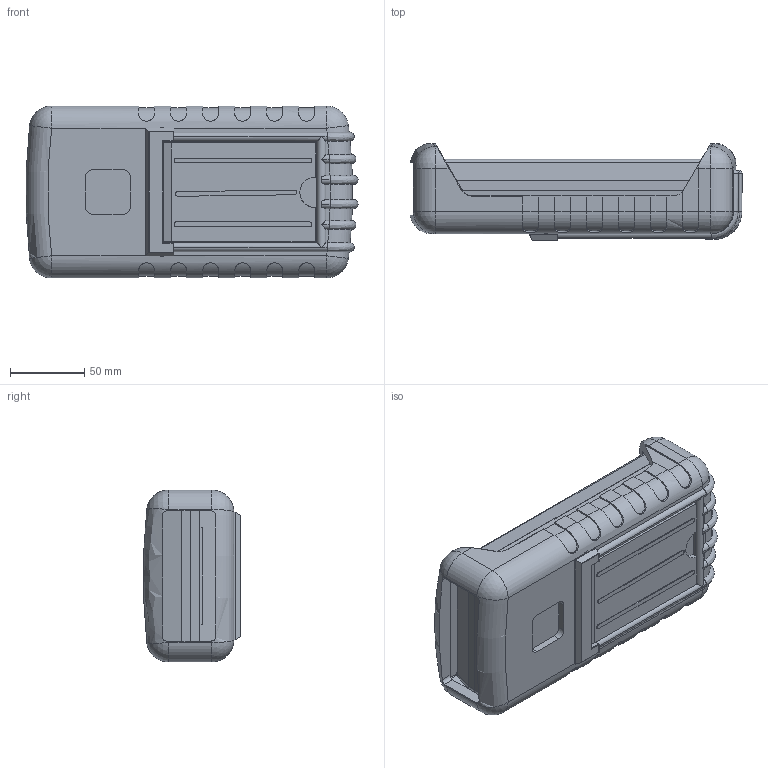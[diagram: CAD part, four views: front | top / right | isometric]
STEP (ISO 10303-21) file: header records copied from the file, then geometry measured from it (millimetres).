
FILE_DESCRIPTION (( 'STEP AP214' ), '1' );
FILE_NAME ('100-42-2A-E-F.STEP', '2020-11-18T18:51:00', ( 'Rudy' ), ( '' ), 'SwSTEP 2.0', 'SolidWorks 2016', '' );
FILE_SCHEMA (( 'AUTOMOTIVE_DESIGN' ));
Length unit declared in the file: millimetre
Products named in the file (9): 100 RBE; 100 RBE Stand; 100-2AA PCB; 2AAdoor; 100-04-flush Top; 100-06 EXPANDER; 100-02 BOT-2AA; 100-42-2A-E-F
Assembly tree (8 placements, depth 3):
  100-42-2A-E-F
    100-02 BOT-2AA
    100-06 EXPANDER
    100-04-flush Top
    2AAdoor
    100-2AA PCB
    100 RBE
      100 RBE
      100 RBE Stand
Bounding box: 223.76 x 65.59 x 115.87 mm (x, y, z)
Volume: 441973.5 mm3; surface area: 290768.9 mm2
Topology: 7 solids, 7 shells, 1432 faces, 3865 edges, 2441 vertices
Faces by surface type: plane 797, cylinder 478, bspline 67, cone 42, torus 36, sphere 12
Entity records: 48191 total; most frequent: CARTESIAN_POINT 12900, ORIENTED_EDGE 7642, DIRECTION 6821, EDGE_CURVE 3821, LINE 2541, VECTOR 2541, VERTEX_POINT 2433, AXIS2_PLACEMENT_3D 2140
